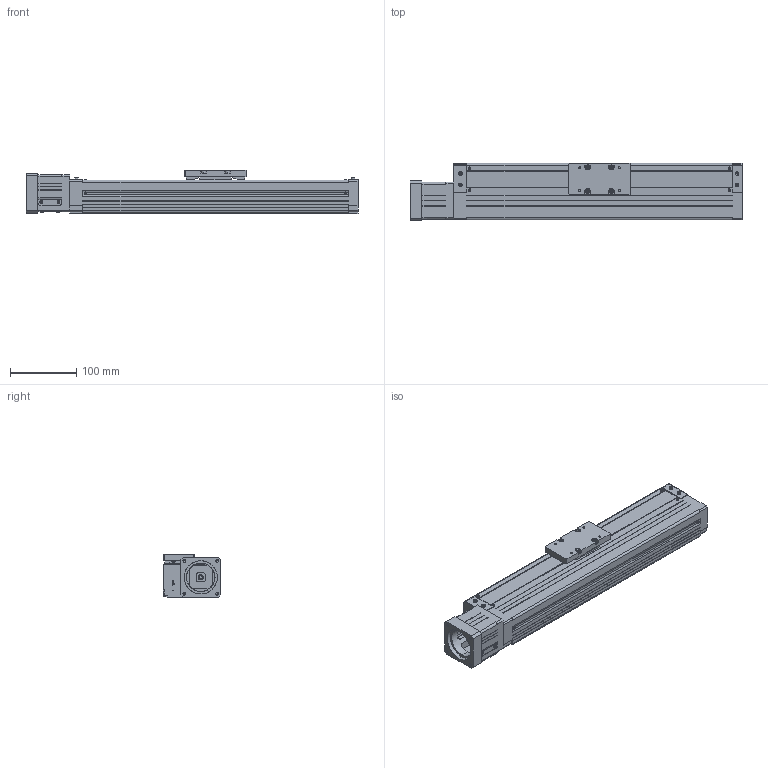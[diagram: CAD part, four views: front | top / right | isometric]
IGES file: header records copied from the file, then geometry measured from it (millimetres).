
Global section: file name: No Iges File Name specified; native system: AutoDesk Inventor R10; preprocessor: AutoDesk Inventor Iges Exporter R10; author: No Author specified; organization: No Organization specified; date: 20110701.174816; units: millimetre
Bounding box: 501 x 86.45 x 65 mm (x, y, z)
Surface area: 319309.8 mm2 (no closed solid volume)
Topology: 0 solids, 0 shells, 938 faces, 5856 edges, 5832 vertices
Faces by surface type: bspline 938
